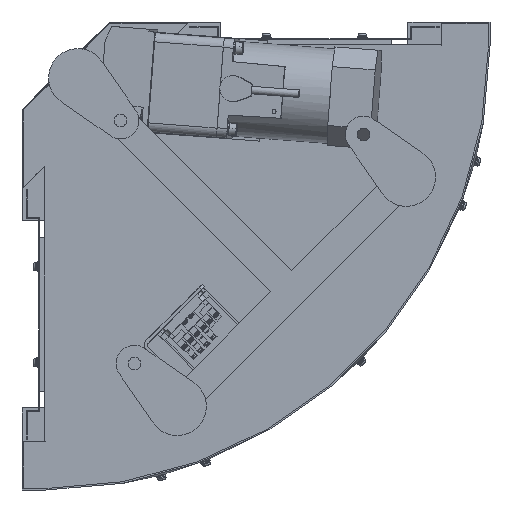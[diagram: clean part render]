
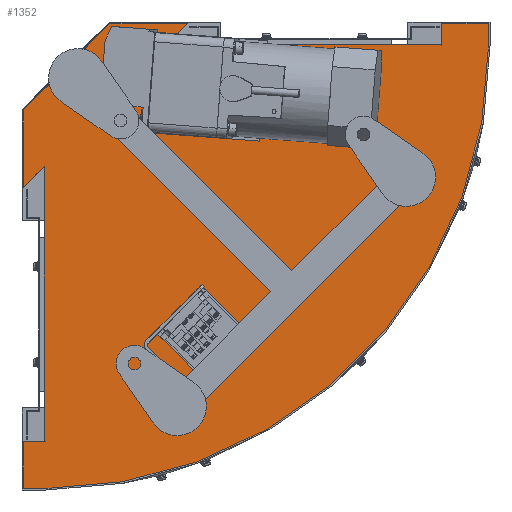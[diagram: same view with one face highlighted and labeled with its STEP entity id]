
A CAD part, front view. The second image highlights one B-rep face of the part: STEP entity #1352.
In plain terms, the highlighted planar face has unit normal (0, -1, 0).
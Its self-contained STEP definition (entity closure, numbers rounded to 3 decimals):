
#1352=ADVANCED_FACE('',(#2963),#2962,.F.);
#2962=PLANE('',#18372);
#2963=FACE_OUTER_BOUND('',#18373,.T.);
#18369=CARTESIAN_POINT('',(-33.4,-145.7,-471.5));
#18370=DIRECTION('',(0.,1.,0.));
#18371=DIRECTION('',(0.,0.,1.));
#18372=AXIS2_PLACEMENT_3D('',#18369,#18370,#18371);
#18373=EDGE_LOOP('',(#28775,#28776,#28777,#28778,#28779,#28780,#28781,#28782,#28783,#28784,#28785,#28786,#28787,#28788,#28789,#28790));
#28775=ORIENTED_EDGE('',*,*,#36677,.F.);
#28776=ORIENTED_EDGE('',*,*,#36678,.F.);
#28777=ORIENTED_EDGE('',*,*,#36679,.T.);
#28778=ORIENTED_EDGE('',*,*,#36680,.T.);
#28779=ORIENTED_EDGE('',*,*,#36681,.T.);
#28780=ORIENTED_EDGE('',*,*,#36682,.T.);
#28781=ORIENTED_EDGE('',*,*,#36683,.T.);
#28782=ORIENTED_EDGE('',*,*,#36684,.F.);
#28783=ORIENTED_EDGE('',*,*,#36685,.F.);
#28784=ORIENTED_EDGE('',*,*,#36686,.T.);
#28785=ORIENTED_EDGE('',*,*,#36687,.T.);
#28786=ORIENTED_EDGE('',*,*,#36688,.T.);
#28787=ORIENTED_EDGE('',*,*,#36689,.T.);
#28788=ORIENTED_EDGE('',*,*,#36690,.T.);
#28789=ORIENTED_EDGE('',*,*,#36691,.T.);
#28790=ORIENTED_EDGE('',*,*,#36692,.T.);
#36677=EDGE_CURVE('',#40826,#40827,#40828,.T.);
#36678=EDGE_CURVE('',#40834,#40826,#40835,.T.);
#36679=EDGE_CURVE('',#40834,#40841,#40842,.T.);
#36680=EDGE_CURVE('',#40841,#40848,#40849,.T.);
#36681=EDGE_CURVE('',#40848,#40855,#40856,.T.);
#36682=EDGE_CURVE('',#40855,#40862,#40863,.T.);
#36683=EDGE_CURVE('',#40862,#40869,#40870,.T.);
#36684=EDGE_CURVE('',#40876,#40869,#40877,.T.);
#36685=EDGE_CURVE('',#40883,#40876,#40884,.T.);
#36686=EDGE_CURVE('',#40883,#40890,#40891,.T.);
#36687=EDGE_CURVE('',#40890,#40897,#40898,.T.);
#36688=EDGE_CURVE('',#40897,#40904,#40905,.T.);
#36689=EDGE_CURVE('',#40904,#40911,#40912,.T.);
#36690=EDGE_CURVE('',#40911,#40918,#40919,.T.);
#36691=EDGE_CURVE('',#40918,#40925,#40926,.T.);
#36692=EDGE_CURVE('',#40925,#40827,#40932,.T.);
#40826=VERTEX_POINT('',#67503);
#40827=VERTEX_POINT('',#67504);
#40828=CIRCLE('',#67508,412.5);
#40834=VERTEX_POINT('',#67509);
#40835=LINE('',#67510,#67511);
#40841=VERTEX_POINT('',#67513);
#40842=LINE('',#67514,#67515);
#40848=VERTEX_POINT('',#67517);
#40849=LINE('',#67518,#67519);
#40855=VERTEX_POINT('',#67521);
#40856=LINE('',#67522,#67523);
#40862=VERTEX_POINT('',#67525);
#40863=LINE('',#67526,#67527);
#40869=VERTEX_POINT('',#67529);
#40870=LINE('',#67530,#67531);
#40876=VERTEX_POINT('',#67533);
#40877=LINE('',#67534,#67535);
#40883=VERTEX_POINT('',#67537);
#40884=CIRCLE('',#67541,412.5);
#40890=VERTEX_POINT('',#67542);
#40891=LINE('',#67543,#67544);
#40897=VERTEX_POINT('',#67546);
#40898=LINE('',#67547,#67548);
#40904=VERTEX_POINT('',#67550);
#40905=LINE('',#67551,#67552);
#40911=VERTEX_POINT('',#67554);
#40912=CIRCLE('',#67558,461.5);
#40918=VERTEX_POINT('',#67559);
#40919=LINE('',#67560,#67561);
#40925=VERTEX_POINT('',#67563);
#40926=LINE('',#67564,#67565);
#40932=LINE('',#67567,#67568);
#67503=CARTESIAN_POINT('',(412.496,-145.7,1.846));
#67504=CARTESIAN_POINT('',(412.5,-145.7,0.));
#67505=CARTESIAN_POINT('',(0.,-145.7,0.));
#67506=DIRECTION('',(0.,1.,0.));
#67507=DIRECTION('',(0.,0.,-1.));
#67508=AXIS2_PLACEMENT_3D('',#67505,#67506,#67507);
#67509=CARTESIAN_POINT('',(125.898,-145.7,1.798));
#67510=CARTESIAN_POINT('',(125.898,-145.7,1.798));
#67511=VECTOR('',#67512,286.598);
#67512=DIRECTION('',(1.,0.,0.));
#67513=CARTESIAN_POINT('',(147.5,-145.7,23.4));
#67514=CARTESIAN_POINT('',(125.898,-145.7,1.798));
#67515=VECTOR('',#67516,30.55);
#67516=DIRECTION('',(0.707,0.,0.707));
#67517=CARTESIAN_POINT('',(66.663,-145.7,23.4));
#67518=CARTESIAN_POINT('',(147.5,-145.7,23.4));
#67519=VECTOR('',#67520,80.837);
#67520=DIRECTION('',(-1.,0.,0.));
#67521=CARTESIAN_POINT('',(-23.4,-145.7,-66.663));
#67522=CARTESIAN_POINT('',(66.663,-145.7,23.4));
#67523=VECTOR('',#67524,127.368);
#67524=DIRECTION('',(-0.707,0.,-0.707));
#67525=CARTESIAN_POINT('',(-23.4,-145.7,-147.5));
#67526=CARTESIAN_POINT('',(-23.4,-145.7,-66.663));
#67527=VECTOR('',#67528,80.837);
#67528=DIRECTION('',(0.,0.,-1.));
#67529=CARTESIAN_POINT('',(-1.798,-145.7,-125.898));
#67530=CARTESIAN_POINT('',(-23.4,-145.7,-147.5));
#67531=VECTOR('',#67532,30.55);
#67532=DIRECTION('',(0.707,0.,0.707));
#67533=CARTESIAN_POINT('',(-1.846,-145.7,-412.496));
#67534=CARTESIAN_POINT('',(-1.846,-145.7,-412.496));
#67535=VECTOR('',#67536,286.598);
#67536=DIRECTION('',(0.,0.,1.));
#67537=CARTESIAN_POINT('',(0.,-145.7,-412.5));
#67538=CARTESIAN_POINT('',(0.,-145.7,0.));
#67539=DIRECTION('',(0.,1.,0.));
#67540=DIRECTION('',(0.,0.,-1.));
#67541=AXIS2_PLACEMENT_3D('',#67538,#67539,#67540);
#67542=CARTESIAN_POINT('',(-23.4,-145.7,-412.5));
#67543=CARTESIAN_POINT('',(0.,-145.7,-412.5));
#67544=VECTOR('',#67545,23.4);
#67545=DIRECTION('',(-1.,0.,0.));
#67546=CARTESIAN_POINT('',(-23.4,-145.7,-461.5));
#67547=CARTESIAN_POINT('',(-23.4,-145.7,-412.5));
#67548=VECTOR('',#67549,49.);
#67549=DIRECTION('',(0.,0.,-1.));
#67550=CARTESIAN_POINT('',(0.,-145.7,-461.5));
#67551=CARTESIAN_POINT('',(-23.4,-145.7,-461.5));
#67552=VECTOR('',#67553,23.4);
#67553=DIRECTION('',(1.,0.,0.));
#67554=CARTESIAN_POINT('',(461.5,-145.7,0.));
#67555=CARTESIAN_POINT('',(0.,-145.7,0.));
#67556=DIRECTION('',(0.,-1.,0.));
#67557=DIRECTION('',(0.,0.,-1.));
#67558=AXIS2_PLACEMENT_3D('',#67555,#67556,#67557);
#67559=CARTESIAN_POINT('',(461.5,-145.7,23.4));
#67560=CARTESIAN_POINT('',(461.5,-145.7,0.));
#67561=VECTOR('',#67562,23.4);
#67562=DIRECTION('',(0.,0.,1.));
#67563=CARTESIAN_POINT('',(412.5,-145.7,23.4));
#67564=CARTESIAN_POINT('',(461.5,-145.7,23.4));
#67565=VECTOR('',#67566,49.);
#67566=DIRECTION('',(-1.,0.,0.));
#67567=CARTESIAN_POINT('',(412.5,-145.7,23.4));
#67568=VECTOR('',#67569,23.4);
#67569=DIRECTION('',(0.,0.,-1.));
